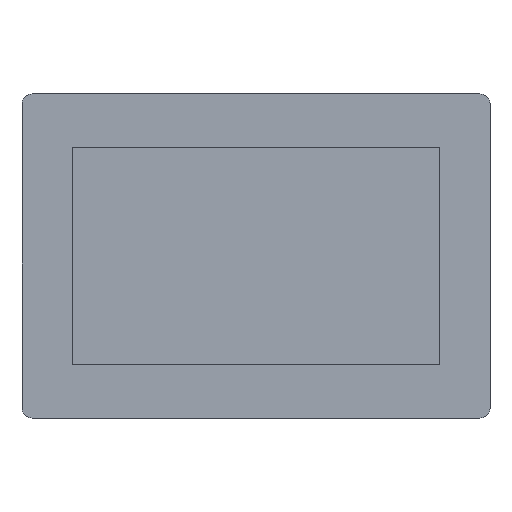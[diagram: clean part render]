
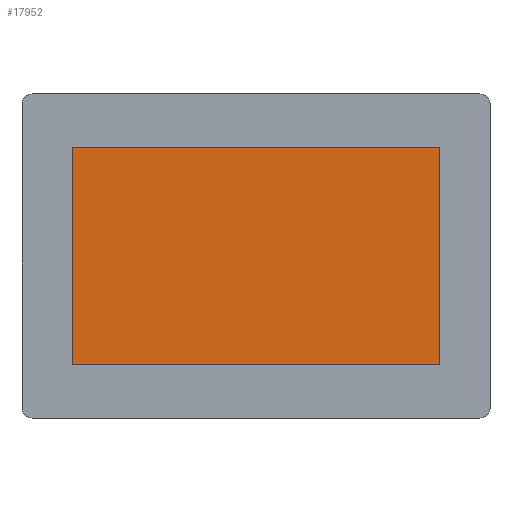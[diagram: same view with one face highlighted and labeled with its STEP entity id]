
A CAD part, top view. The second image highlights one B-rep face of the part: STEP entity #17952.
In plain terms, the highlighted planar face has unit normal (0, 0, 1).
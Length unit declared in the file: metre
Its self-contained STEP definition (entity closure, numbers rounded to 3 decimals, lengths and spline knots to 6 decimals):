
#917=ORIENTED_EDGE('',*,*,#6120,.F.);
#918=ORIENTED_EDGE('',*,*,#6123,.T.);
#919=ORIENTED_EDGE('',*,*,#6125,.T.);
#920=ORIENTED_EDGE('',*,*,#6126,.F.);
#6120=EDGE_CURVE('',#8728,#8729,#10489,.T.);
#6123=EDGE_CURVE('',#8728,#8730,#10492,.T.);
#6125=EDGE_CURVE('',#8730,#8731,#10494,.T.);
#6126=EDGE_CURVE('',#8729,#8731,#10495,.T.);
#8728=VERTEX_POINT('',#26100);
#8729=VERTEX_POINT('',#26102);
#8730=VERTEX_POINT('',#26106);
#8731=VERTEX_POINT('',#26110);
#10489=LINE('',#26101,#12598);
#10492=LINE('',#26107,#12601);
#10494=LINE('',#26111,#12603);
#10495=LINE('',#26113,#12604);
#12598=VECTOR('',#20926,1.);
#12601=VECTOR('',#20931,1.);
#12603=VECTOR('',#20935,1.);
#12604=VECTOR('',#20938,1.);
#14696=EDGE_LOOP('',(#917,#918,#919,#920));
#15923=FACE_BOUND('',#14696,.T.);
#17141=PLANE('',#19331);
#17952=ADVANCED_FACE('',(#15923),#17141,.T.);
#19331=AXIS2_PLACEMENT_3D('',#26114,#20939,#20940);
#20926=DIRECTION('',(0.,-1.,0.));
#20931=DIRECTION('',(-1.,0.,0.));
#20935=DIRECTION('',(0.,-1.,0.));
#20938=DIRECTION('',(-1.,0.,0.));
#20939=DIRECTION('',(0.,0.,1.));
#20940=DIRECTION('',(1.,0.,0.));
#26100=CARTESIAN_POINT('',(0.055,0.0326,0.00179));
#26101=CARTESIAN_POINT('',(0.055,0.,0.00179));
#26102=CARTESIAN_POINT('',(0.055,-0.0326,0.00179));
#26106=CARTESIAN_POINT('',(-0.055,0.0326,0.00179));
#26107=CARTESIAN_POINT('',(0.,0.0326,0.00179));
#26110=CARTESIAN_POINT('',(-0.055,-0.0326,0.00179));
#26111=CARTESIAN_POINT('',(-0.055,0.,0.00179));
#26113=CARTESIAN_POINT('',(0.,-0.0326,0.00179));
#26114=CARTESIAN_POINT('',(0.,0.,
0.00179));
